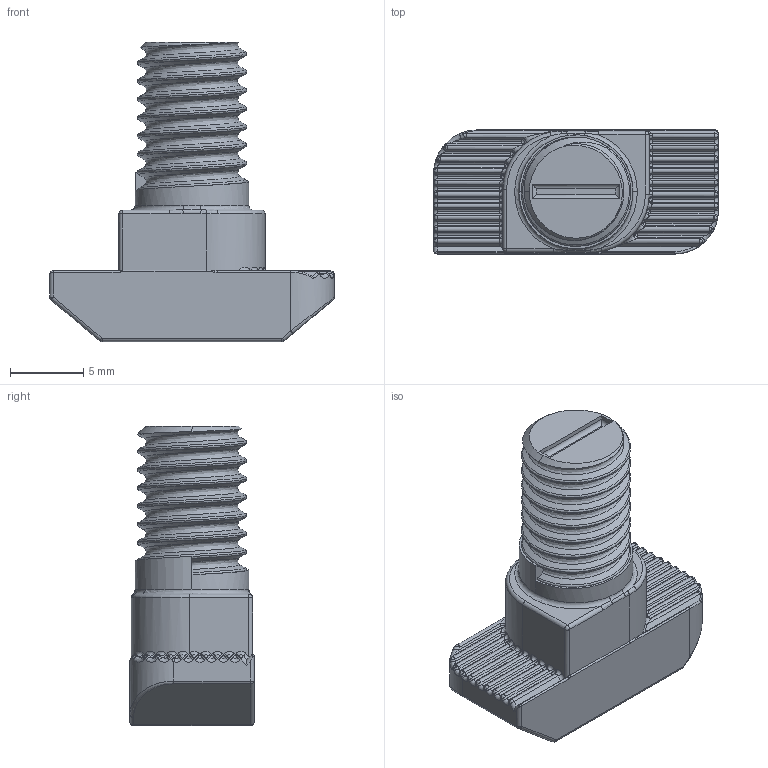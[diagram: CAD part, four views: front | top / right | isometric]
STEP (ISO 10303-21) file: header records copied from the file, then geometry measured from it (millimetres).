
FILE_DESCRIPTION (( 'STEP AP203' ), '1' );
FILE_NAME ('5029.STEP', '2016-01-21T10:22:43', ( '' ), ( '' ), 'SwSTEP 2.0', 'SolidWorks 2014', '' );
FILE_SCHEMA (( 'CONFIG_CONTROL_DESIGN' ));
Length unit declared in the file: millimetre
Products named in the file (1): 5029
Bounding box: 19.5 x 8.5 x 20.5 mm (x, y, z)
Volume: 1447.9 mm3; surface area: 1019.8 mm2
Topology: 1 solids, 1 shells, 376 faces, 906 edges, 486 vertices
Faces by surface type: cylinder 139, bspline 135, plane 62, torus 29, sphere 9, cone 2
Entity records: 15768 total; most frequent: CARTESIAN_POINT 8377, ORIENTED_EDGE 1718, DIRECTION 1349, EDGE_CURVE 859, AXIS2_PLACEMENT_3D 539, VERTEX_POINT 486, EDGE_LOOP 377, ADVANCED_FACE 376
